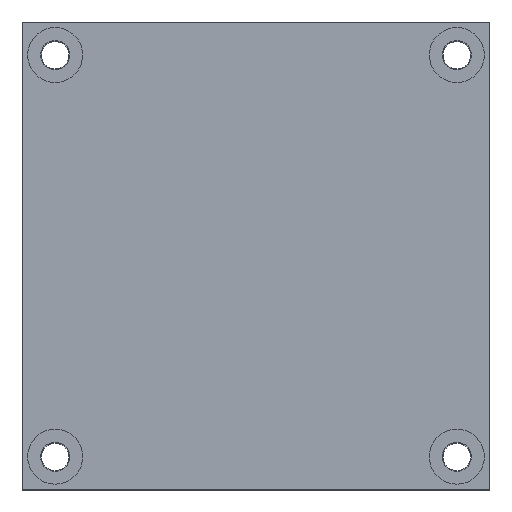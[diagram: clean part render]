
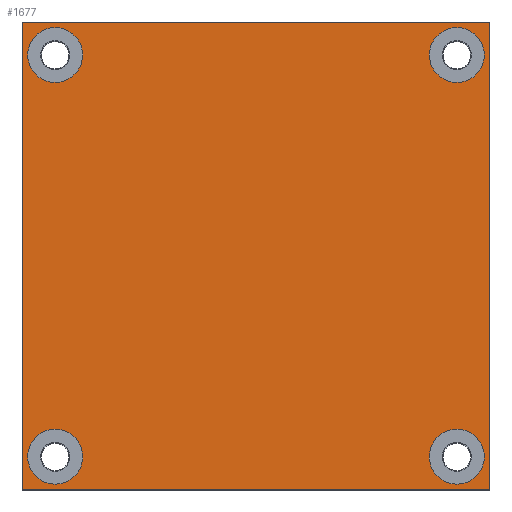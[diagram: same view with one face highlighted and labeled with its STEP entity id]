
A CAD part, top view. The second image highlights one B-rep face of the part: STEP entity #1677.
In plain terms, the highlighted planar face has unit normal (0, 0, 1).
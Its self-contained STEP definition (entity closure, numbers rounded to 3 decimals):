
#5 = EDGE_CURVE ( 'NONE', #1349, #934, #1725, .T. ) ;
#17 = ORIENTED_EDGE ( 'NONE', *, *, #1399, .F. ) ;
#39 = DIRECTION ( 'NONE',  ( -1., 0., 0. ) ) ;
#134 = VERTEX_POINT ( 'NONE', #661 ) ;
#182 = CARTESIAN_POINT ( 'NONE',  ( -42.5, -42.5, 16. ) ) ;
#200 = VERTEX_POINT ( 'NONE', #2360 ) ;
#261 = AXIS2_PLACEMENT_3D ( 'NONE', #2030, #356, #1734 ) ;
#276 = EDGE_CURVE ( 'NONE', #1939, #1664, #886, .T. ) ;
#304 = ORIENTED_EDGE ( 'NONE', *, *, #346, .F. ) ;
#330 = VERTEX_POINT ( 'NONE', #1714 ) ;
#339 = EDGE_CURVE ( 'NONE', #2942, #1349, #1276, .T. ) ;
#346 = EDGE_CURVE ( 'NONE', #330, #2528, #1093, .T. ) ;
#351 = VERTEX_POINT ( 'NONE', #370 ) ;
#354 = DIRECTION ( 'NONE',  ( 0., 0., 1. ) ) ;
#356 = DIRECTION ( 'NONE',  ( 0., 0., 1. ) ) ;
#369 = ORIENTED_EDGE ( 'NONE', *, *, #1749, .F. ) ;
#370 = CARTESIAN_POINT ( 'NONE',  ( 31.5, -36.5, 16. ) ) ;
#377 = DIRECTION ( 'NONE',  ( 0., 0., 1. ) ) ;
#392 = CARTESIAN_POINT ( 'NONE',  ( -31.5, -36.5, 16. ) ) ;
#409 = CIRCLE ( 'NONE', #261, 5. ) ;
#410 = FACE_BOUND ( 'NONE', #729, .T. ) ;
#433 = FACE_BOUND ( 'NONE', #709, .T. ) ;
#534 = DIRECTION ( 'NONE',  ( 0., 0., 1. ) ) ;
#553 = DIRECTION ( 'NONE',  ( 1., 0., 0. ) ) ;
#580 = VERTEX_POINT ( 'NONE', #1645 ) ;
#581 = CARTESIAN_POINT ( 'NONE',  ( -42.5, -42.5, 16. ) ) ;
#589 = ORIENTED_EDGE ( 'NONE', *, *, #1270, .F. ) ;
#615 = DIRECTION ( 'NONE',  ( 0., 1., 0. ) ) ;
#661 = CARTESIAN_POINT ( 'NONE',  ( 41.5, -36.5, 16. ) ) ;
#663 = CARTESIAN_POINT ( 'NONE',  ( -42.5, 42.5, 16. ) ) ;
#665 = CARTESIAN_POINT ( 'NONE',  ( 0., 0., 16. ) ) ;
#709 = EDGE_LOOP ( 'NONE', ( #2607, #304 ) ) ;
#729 = EDGE_LOOP ( 'NONE', ( #1753, #589 ) ) ;
#849 = AXIS2_PLACEMENT_3D ( 'NONE', #2936, #1138, #850 ) ;
#850 = DIRECTION ( 'NONE',  ( 1., 0., 0. ) ) ;
#886 = CIRCLE ( 'NONE', #1717, 5. ) ;
#934 = VERTEX_POINT ( 'NONE', #2421 ) ;
#962 = ORIENTED_EDGE ( 'NONE', *, *, #1673, .F. ) ;
#966 = CARTESIAN_POINT ( 'NONE',  ( 42.5, -42.5, 16. ) ) ;
#1041 = EDGE_CURVE ( 'NONE', #2528, #330, #409, .T. ) ;
#1091 = FACE_BOUND ( 'NONE', #3002, .T. ) ;
#1093 = CIRCLE ( 'NONE', #2783, 5. ) ;
#1100 = CARTESIAN_POINT ( 'NONE',  ( 41.5, 36.5, 16. ) ) ;
#1138 = DIRECTION ( 'NONE',  ( 0., 0., 1. ) ) ;
#1247 = DIRECTION ( 'NONE',  ( 1., 0., 0. ) ) ;
#1250 = DIRECTION ( 'NONE',  ( 0., 0., 1. ) ) ;
#1251 = CARTESIAN_POINT ( 'NONE',  ( -42.5, 42.5, 16. ) ) ;
#1270 = EDGE_CURVE ( 'NONE', #351, #134, #1340, .T. ) ;
#1276 = LINE ( 'NONE', #581, #2401 ) ;
#1302 = ORIENTED_EDGE ( 'NONE', *, *, #276, .F. ) ;
#1314 = CARTESIAN_POINT ( 'NONE',  ( -42.5, 42.5, 16. ) ) ;
#1340 = CIRCLE ( 'NONE', #2023, 5. ) ;
#1344 = CIRCLE ( 'NONE', #2938, 5. ) ;
#1349 = VERTEX_POINT ( 'NONE', #966 ) ;
#1374 = PLANE ( 'NONE',  #2021 ) ;
#1399 = EDGE_CURVE ( 'NONE', #1664, #1939, #1344, .T. ) ;
#1490 = EDGE_LOOP ( 'NONE', ( #2845, #1943, #2714, #2190 ) ) ;
#1549 = CARTESIAN_POINT ( 'NONE',  ( -36.5, 36.5, 16. ) ) ;
#1554 = EDGE_CURVE ( 'NONE', #2802, #2942, #1565, .T. ) ;
#1561 = DIRECTION ( 'NONE',  ( 1., 0., 0. ) ) ;
#1565 = LINE ( 'NONE', #1314, #2504 ) ;
#1645 = CARTESIAN_POINT ( 'NONE',  ( -41.5, 36.5, 16. ) ) ;
#1662 = AXIS2_PLACEMENT_3D ( 'NONE', #2241, #354, #2226 ) ;
#1664 = VERTEX_POINT ( 'NONE', #392 ) ;
#1673 = EDGE_CURVE ( 'NONE', #200, #580, #2163, .T. ) ;
#1677 = ADVANCED_FACE ( 'NONE', ( #2740, #1091, #433, #410, #2311 ), #1374, .T. ) ;
#1714 = CARTESIAN_POINT ( 'NONE',  ( 31.5, 36.5, 16. ) ) ;
#1717 = AXIS2_PLACEMENT_3D ( 'NONE', #2682, #1250, #2881 ) ;
#1725 = LINE ( 'NONE', #1995, #2181 ) ;
#1734 = DIRECTION ( 'NONE',  ( 1., 0., 0. ) ) ;
#1749 = EDGE_CURVE ( 'NONE', #580, #200, #2267, .T. ) ;
#1753 = ORIENTED_EDGE ( 'NONE', *, *, #2525, .F. ) ;
#1782 = AXIS2_PLACEMENT_3D ( 'NONE', #1549, #1836, #2047 ) ;
#1812 = DIRECTION ( 'NONE',  ( 1., 0., 0. ) ) ;
#1836 = DIRECTION ( 'NONE',  ( 0., 0., 1. ) ) ;
#1881 = EDGE_LOOP ( 'NONE', ( #17, #1302 ) ) ;
#1939 = VERTEX_POINT ( 'NONE', #2902 ) ;
#1943 = ORIENTED_EDGE ( 'NONE', *, *, #2376, .T. ) ;
#1979 = DIRECTION ( 'NONE',  ( 1., 0., 0. ) ) ;
#1995 = CARTESIAN_POINT ( 'NONE',  ( 42.5, 42.5, 16. ) ) ;
#2001 = VECTOR ( 'NONE', #39, 1000. ) ;
#2016 = DIRECTION ( 'NONE',  ( 0., -1., 0. ) ) ;
#2021 = AXIS2_PLACEMENT_3D ( 'NONE', #665, #377, #1561 ) ;
#2023 = AXIS2_PLACEMENT_3D ( 'NONE', #2042, #2960, #1812 ) ;
#2030 = CARTESIAN_POINT ( 'NONE',  ( 36.5, 36.5, 16. ) ) ;
#2042 = CARTESIAN_POINT ( 'NONE',  ( 36.5, -36.5, 16. ) ) ;
#2047 = DIRECTION ( 'NONE',  ( 1., 0., 0. ) ) ;
#2163 = CIRCLE ( 'NONE', #1782, 5. ) ;
#2181 = VECTOR ( 'NONE', #615, 1000. ) ;
#2190 = ORIENTED_EDGE ( 'NONE', *, *, #339, .T. ) ;
#2226 = DIRECTION ( 'NONE',  ( 1., 0., 0. ) ) ;
#2241 = CARTESIAN_POINT ( 'NONE',  ( 36.5, -36.5, 16. ) ) ;
#2267 = CIRCLE ( 'NONE', #849, 5. ) ;
#2311 = FACE_OUTER_BOUND ( 'NONE', #1490, .T. ) ;
#2360 = CARTESIAN_POINT ( 'NONE',  ( -31.5, 36.5, 16. ) ) ;
#2376 = EDGE_CURVE ( 'NONE', #934, #2802, #2635, .T. ) ;
#2401 = VECTOR ( 'NONE', #553, 1000. ) ;
#2421 = CARTESIAN_POINT ( 'NONE',  ( 42.5, 42.5, 16. ) ) ;
#2504 = VECTOR ( 'NONE', #2016, 1000. ) ;
#2525 = EDGE_CURVE ( 'NONE', #134, #351, #2969, .T. ) ;
#2528 = VERTEX_POINT ( 'NONE', #1100 ) ;
#2607 = ORIENTED_EDGE ( 'NONE', *, *, #1041, .F. ) ;
#2633 = CARTESIAN_POINT ( 'NONE',  ( 36.5, 36.5, 16. ) ) ;
#2635 = LINE ( 'NONE', #1251, #2001 ) ;
#2682 = CARTESIAN_POINT ( 'NONE',  ( -36.5, -36.5, 16. ) ) ;
#2714 = ORIENTED_EDGE ( 'NONE', *, *, #1554, .T. ) ;
#2740 = FACE_BOUND ( 'NONE', #1881, .T. ) ;
#2783 = AXIS2_PLACEMENT_3D ( 'NONE', #2633, #2911, #1979 ) ;
#2802 = VERTEX_POINT ( 'NONE', #663 ) ;
#2845 = ORIENTED_EDGE ( 'NONE', *, *, #5, .T. ) ;
#2860 = CARTESIAN_POINT ( 'NONE',  ( -36.5, -36.5, 16. ) ) ;
#2881 = DIRECTION ( 'NONE',  ( 1., 0., 0. ) ) ;
#2902 = CARTESIAN_POINT ( 'NONE',  ( -41.5, -36.5, 16. ) ) ;
#2911 = DIRECTION ( 'NONE',  ( 0., 0., 1. ) ) ;
#2936 = CARTESIAN_POINT ( 'NONE',  ( -36.5, 36.5, 16. ) ) ;
#2938 = AXIS2_PLACEMENT_3D ( 'NONE', #2860, #534, #1247 ) ;
#2942 = VERTEX_POINT ( 'NONE', #182 ) ;
#2960 = DIRECTION ( 'NONE',  ( 0., 0., 1. ) ) ;
#2969 = CIRCLE ( 'NONE', #1662, 5. ) ;
#3002 = EDGE_LOOP ( 'NONE', ( #962, #369 ) ) ;
